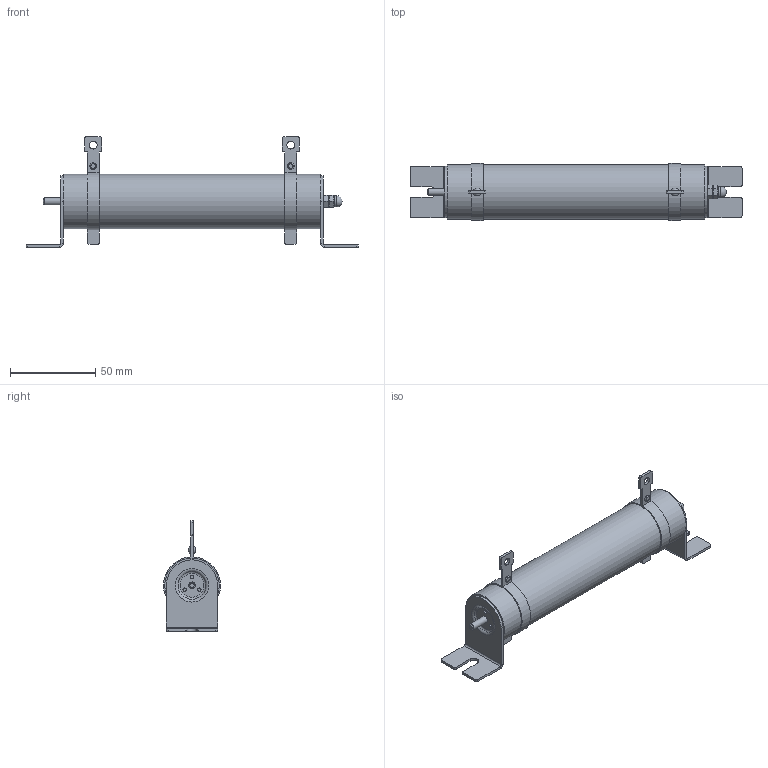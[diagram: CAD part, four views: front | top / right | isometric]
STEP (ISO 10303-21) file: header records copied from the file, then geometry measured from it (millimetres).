
FILE_DESCRIPTION(('STEP AP203'), '1');
FILE_NAME('Ðåçèñòîð òîðìîçíîé _ 80 Âò 400 Îì', '', ('UNSPECIFIED'), ('UNSPECIFIED'), 'C3D Converter', 'C3D Toolkit', '');
FILE_SCHEMA(('CONFIG_CONTROL_DESIGN'));
Length unit declared in the file: millimetre
Products named in the file (16): 80 Вт 400 Ом; РТ 80 Вт 400 Ом; ГОСТ 22032-76; DIN 125 (A); DIN 127 (A); DIN 934; ГОСТ 11860-85; ГОСТ 10299-80
Assembly tree (19 placements, depth 3):
  80 Вт 400 Ом
    РТ 80 Вт 400 Ом
    РТ 80 Вт 400 Ом  x2
    ГОСТ 22032-76  x2
      (unnamed)
    DIN 125 (A)
      (unnamed)
    DIN 127 (A)
      (unnamed)
    DIN 934
      (unnamed)
    ГОСТ 11860-85
      (unnamed)
    РТ 80 Вт 400 Ом  x2
    ГОСТ 10299-80  x2
      (unnamed)
Bounding box: 195 x 33.5 x 65 mm (x, y, z)
Volume: 127781.4 mm3; surface area: 30072.5 mm2
Topology: 13 solids, 13 shells, 193 faces, 426 edges, 269 vertices
Faces by surface type: plane 94, cylinder 62, cone 22, torus 12, sphere 3
Full cylindrical faces by diameter (mm): 2 x6, 2.5 x4, 3.242 x2, 4 x4, 4.3 x1, 4.5 x4, 6.5 x1, 9 x1, 19 x2, 32 x3
Entity records: 5546 total; most frequent: CARTESIAN_POINT 1506, DIRECTION 588, ORIENTED_EDGE 466, AXIS2_PLACEMENT_3D 249, EDGE_CURVE 233, EDGE_LOOP 186, VERTEX_POINT 167, ADVANCED_FACE 126
